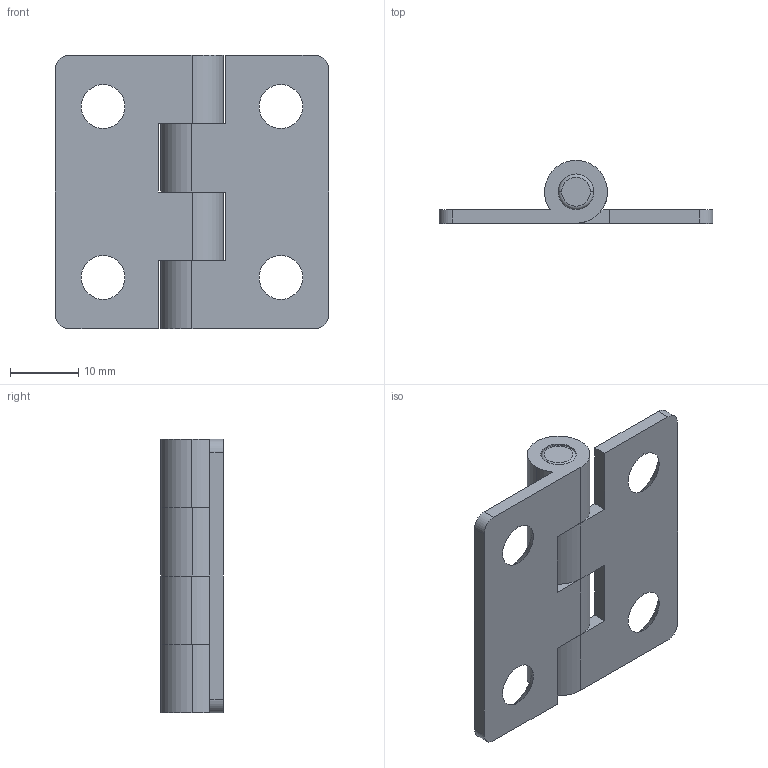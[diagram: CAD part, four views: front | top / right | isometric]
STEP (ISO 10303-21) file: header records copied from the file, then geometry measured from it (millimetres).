
FILE_DESCRIPTION (( 'STEP AP203' ), '1' );
FILE_NAME ('B27-40240.STEP', '2024-10-24T08:04:09', ( '' ), ( '' ), 'SwSTEP 2.0', 'SolidWorks 2021', '' );
FILE_SCHEMA (( 'CONFIG_CONTROL_DESIGN' ));
Length unit declared in the file: millimetre
Products named in the file (3): B27-40240-2; B27-40240; B27-40240-1
Assembly tree (3 placements, depth 2):
  B27-40240
    B27-40240-1  x2
    B27-40240-2
Bounding box: 40 x 9.2 x 40 mm (x, y, z)
Volume: 4793.6 mm3; surface area: 5550.8 mm2
Topology: 3 solids, 3 shells, 60 faces, 158 edges, 104 vertices
Faces by surface type: cylinder 26, plane 22, cone 8, torus 4
Entity records: 1395 total; most frequent: DIRECTION 210, CARTESIAN_POINT 182, ORIENTED_EDGE 172, EDGE_CURVE 86, AXIS2_PLACEMENT_3D 84, VERTEX_POINT 56, CIRCLE 44, LINE 42
